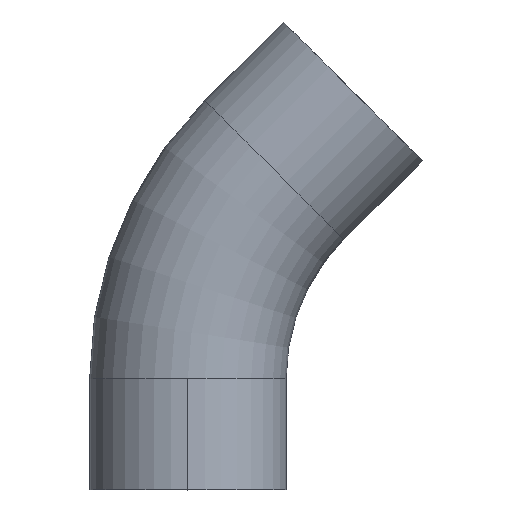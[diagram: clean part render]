
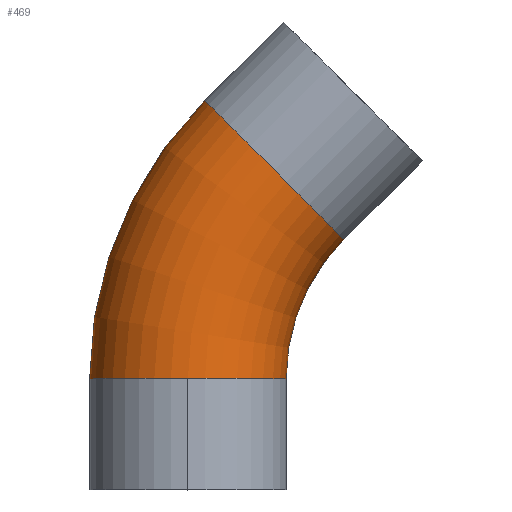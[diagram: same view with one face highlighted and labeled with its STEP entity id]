
A CAD part, top view. The second image highlights one B-rep face of the part: STEP entity #469.
In plain terms, the highlighted toroidal (fillet/blend) face has major radius 38.1 mm and minor radius 12.7 mm.
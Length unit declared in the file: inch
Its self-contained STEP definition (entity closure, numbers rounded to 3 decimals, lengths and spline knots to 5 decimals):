
#8 = DIRECTION ( 'NONE',  ( 0., 1., 0. ) ) ;
#21 = FACE_OUTER_BOUND ( 'NONE', #376, .T. ) ;
#41 = DIRECTION ( 'NONE',  ( 0., 0., 1. ) ) ;
#45 = CIRCLE ( 'NONE', #242, 2. ) ;
#74 = CARTESIAN_POINT ( 'NONE',  ( 1.5, 0.566, 0. ) ) ;
#98 = TOROIDAL_SURFACE ( 'NONE', #180, 1.5, 0.5 ) ;
#101 = VERTEX_POINT ( 'NONE', #287 ) ;
#108 = DIRECTION ( 'NONE',  ( 1., 0., 0. ) ) ;
#114 = CIRCLE ( 'NONE', #247, 0.5 ) ;
#126 = CIRCLE ( 'NONE', #230, 1. ) ;
#133 = CARTESIAN_POINT ( 'NONE',  ( 0.43934, 1.62666, 0. ) ) ;
#151 = ORIENTED_EDGE ( 'NONE', *, *, #340, .T. ) ;
#155 = DIRECTION ( 'NONE',  ( 0., 1., 0. ) ) ;
#178 = DIRECTION ( 'NONE',  ( -0.707, 0.707, 0. ) ) ;
#180 = AXIS2_PLACEMENT_3D ( 'NONE', #236, #329, #347 ) ;
#187 = VERTEX_POINT ( 'NONE', #191 ) ;
#191 = CARTESIAN_POINT ( 'NONE',  ( 0.5, 0.566, 0. ) ) ;
#217 = VERTEX_POINT ( 'NONE', #402 ) ;
#224 = ORIENTED_EDGE ( 'NONE', *, *, #334, .F. ) ;
#230 = AXIS2_PLACEMENT_3D ( 'NONE', #74, #377, #108 ) ;
#233 = AXIS2_PLACEMENT_3D ( 'NONE', #245, #8, #290 ) ;
#236 = CARTESIAN_POINT ( 'NONE',  ( 1.5, 0.566, 0. ) ) ;
#237 = AXIS2_PLACEMENT_3D ( 'NONE', #420, #155, #451 ) ;
#242 = AXIS2_PLACEMENT_3D ( 'NONE', #288, #41, #335 ) ;
#245 = CARTESIAN_POINT ( 'NONE',  ( 0., 0.566, 0. ) ) ;
#247 = AXIS2_PLACEMENT_3D ( 'NONE', #133, #434, #178 ) ;
#287 = CARTESIAN_POINT ( 'NONE',  ( 0.08579, 1.98021, 0. ) ) ;
#288 = CARTESIAN_POINT ( 'NONE',  ( 1.5, 0.566, 0. ) ) ;
#290 = DIRECTION ( 'NONE',  ( -1., 0., 0. ) ) ;
#329 = DIRECTION ( 'NONE',  ( 0., 0., 1. ) ) ;
#334 = EDGE_CURVE ( 'NONE', #101, #217, #114, .T. ) ;
#335 = DIRECTION ( 'NONE',  ( 1., 0., 0. ) ) ;
#340 = EDGE_CURVE ( 'NONE', #101, #370, #45, .T. ) ;
#343 = CIRCLE ( 'NONE', #233, 0.5 ) ;
#345 = EDGE_CURVE ( 'NONE', #370, #458, #447, .T. ) ;
#347 = DIRECTION ( 'NONE',  ( 1., 0., 0. ) ) ;
#349 = EDGE_CURVE ( 'NONE', #458, #187, #343, .T. ) ;
#354 = EDGE_CURVE ( 'NONE', #217, #187, #126, .T. ) ;
#370 = VERTEX_POINT ( 'NONE', #410 ) ;
#376 = EDGE_LOOP ( 'NONE', ( #224, #151, #398, #448, #477 ) ) ;
#377 = DIRECTION ( 'NONE',  ( 0., 0., 1. ) ) ;
#398 = ORIENTED_EDGE ( 'NONE', *, *, #345, .T. ) ;
#402 = CARTESIAN_POINT ( 'NONE',  ( 0.79289, 1.27311, 0. ) ) ;
#410 = CARTESIAN_POINT ( 'NONE',  ( -0.5, 0.566, 0. ) ) ;
#420 = CARTESIAN_POINT ( 'NONE',  ( 0., 0.566, 0. ) ) ;
#434 = DIRECTION ( 'NONE',  ( 0.707, 0.707, 0. ) ) ;
#443 = CARTESIAN_POINT ( 'NONE',  ( 0., 0.566, 0.5 ) ) ;
#447 = CIRCLE ( 'NONE', #237, 0.5 ) ;
#448 = ORIENTED_EDGE ( 'NONE', *, *, #349, .T. ) ;
#451 = DIRECTION ( 'NONE',  ( -1., 0., 0. ) ) ;
#458 = VERTEX_POINT ( 'NONE', #443 ) ;
#469 = ADVANCED_FACE ( 'NONE', ( #21 ), #98, .T. ) ;
#477 = ORIENTED_EDGE ( 'NONE', *, *, #354, .F. ) ;
